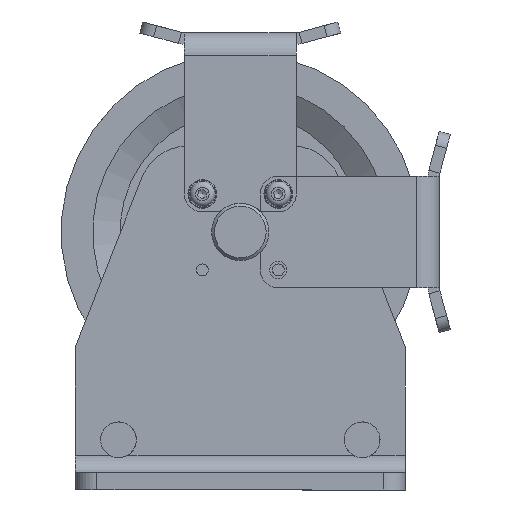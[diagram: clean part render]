
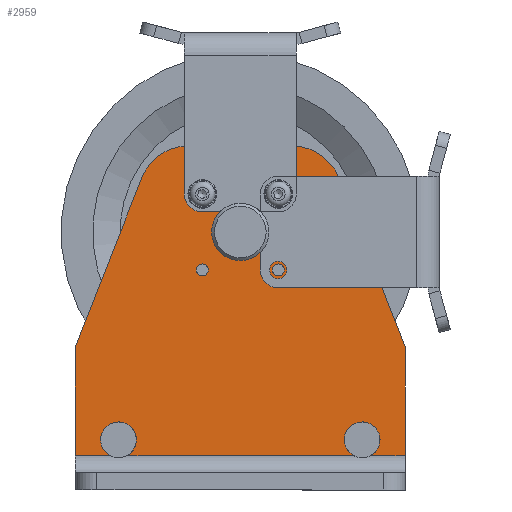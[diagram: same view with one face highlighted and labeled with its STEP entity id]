
A CAD part, front view. The second image highlights one B-rep face of the part: STEP entity #2959.
In plain terms, the highlighted planar face has unit normal (0, -1, 0) as drawn and (0, 0, 1) by its records, which use the part's own axes.
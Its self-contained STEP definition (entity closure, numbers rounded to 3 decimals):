
#165=FACE_BOUND('',#490,.T.);
#166=FACE_BOUND('',#491,.T.);
#167=FACE_BOUND('',#492,.T.);
#168=FACE_BOUND('',#493,.T.);
#169=FACE_BOUND('',#494,.T.);
#207=PLANE('',#3412);
#315=FACE_OUTER_BOUND('',#489,.T.);
#489=EDGE_LOOP('',(#2210,#2211,#2212,#2213,#2214,#2215,#2216,#2217,#2218,
#2219,#2220,#2221,#2222,#2223));
#490=EDGE_LOOP('',(#2224,#2225));
#491=EDGE_LOOP('',(#2226,#2227));
#492=EDGE_LOOP('',(#2228,#2229));
#493=EDGE_LOOP('',(#2230,#2231));
#494=EDGE_LOOP('',(#2232));
#667=CIRCLE('',#3362,4.188);
#668=CIRCLE('',#3363,4.188);
#670=CIRCLE('',#3366,4.188);
#671=CIRCLE('',#3367,4.188);
#673=CIRCLE('',#3370,4.188);
#674=CIRCLE('',#3371,4.188);
#676=CIRCLE('',#3374,4.188);
#677=CIRCLE('',#3375,4.188);
#688=CIRCLE('',#3398,12.5);
#689=CIRCLE('',#3399,12.5);
#690=CIRCLE('',#3401,12.5);
#691=CIRCLE('',#3402,12.5);
#692=CIRCLE('',#3404,20.);
#693=CIRCLE('',#3407,35.);
#694=CIRCLE('',#3410,35.);
#842=LINE('',#4753,#1063);
#843=LINE('',#4770,#1064);
#847=LINE('',#4781,#1068);
#890=LINE('',#4945,#1111);
#891=LINE('',#4948,#1112);
#900=LINE('',#4986,#1121);
#903=LINE('',#4994,#1124);
#906=LINE('',#5001,#1127);
#1063=VECTOR('',#3731,10.);
#1064=VECTOR('',#3732,10.);
#1068=VECTOR('',#3740,10.);
#1111=VECTOR('',#3889,10.);
#1112=VECTOR('',#3892,10.);
#1121=VECTOR('',#3935,10.);
#1124=VECTOR('',#3944,10.);
#1127=VECTOR('',#3953,10.);
#1292=VERTEX_POINT('',#4736);
#1293=VERTEX_POINT('',#4737);
#1294=VERTEX_POINT('',#4752);
#1295=VERTEX_POINT('',#4754);
#1296=VERTEX_POINT('',#4769);
#1301=VERTEX_POINT('',#4779);
#1330=VERTEX_POINT('',#4862);
#1331=VERTEX_POINT('',#4863);
#1333=VERTEX_POINT('',#4870);
#1334=VERTEX_POINT('',#4871);
#1336=VERTEX_POINT('',#4878);
#1337=VERTEX_POINT('',#4879);
#1339=VERTEX_POINT('',#4886);
#1340=VERTEX_POINT('',#4887);
#1349=VERTEX_POINT('',#4943);
#1350=VERTEX_POINT('',#4947);
#1359=VERTEX_POINT('',#4971);
#1360=VERTEX_POINT('',#4976);
#1361=VERTEX_POINT('',#4981);
#1362=VERTEX_POINT('',#4985);
#1363=VERTEX_POINT('',#4989);
#1364=VERTEX_POINT('',#4993);
#1365=VERTEX_POINT('',#4997);
#1571=EDGE_CURVE('',#1294,#1293,#842,.T.);
#1573=EDGE_CURVE('',#1296,#1295,#843,.T.);
#1579=EDGE_CURVE('',#1292,#1301,#847,.T.);
#1621=EDGE_CURVE('',#1330,#1331,#667,.T.);
#1622=EDGE_CURVE('',#1331,#1330,#668,.T.);
#1625=EDGE_CURVE('',#1333,#1334,#670,.T.);
#1626=EDGE_CURVE('',#1334,#1333,#671,.T.);
#1629=EDGE_CURVE('',#1336,#1337,#673,.T.);
#1630=EDGE_CURVE('',#1337,#1336,#674,.T.);
#1633=EDGE_CURVE('',#1339,#1340,#676,.T.);
#1634=EDGE_CURVE('',#1340,#1339,#677,.T.);
#1654=EDGE_CURVE('',#1349,#1301,#890,.T.);
#1655=EDGE_CURVE('',#1296,#1350,#891,.T.);
#1669=EDGE_CURVE('',#1293,#1359,#688,.T.);
#1670=EDGE_CURVE('',#1359,#1292,#689,.T.);
#1672=EDGE_CURVE('',#1295,#1360,#690,.T.);
#1673=EDGE_CURVE('',#1360,#1294,#691,.T.);
#1675=EDGE_CURVE('',#1361,#1361,#692,.T.);
#1676=EDGE_CURVE('',#1350,#1362,#900,.T.);
#1678=EDGE_CURVE('',#1362,#1363,#693,.T.);
#1680=EDGE_CURVE('',#1363,#1364,#903,.T.);
#1682=EDGE_CURVE('',#1364,#1365,#694,.T.);
#1684=EDGE_CURVE('',#1365,#1349,#906,.T.);
#2210=ORIENTED_EDGE('',*,*,#1579,.T.);
#2211=ORIENTED_EDGE('',*,*,#1654,.F.);
#2212=ORIENTED_EDGE('',*,*,#1684,.F.);
#2213=ORIENTED_EDGE('',*,*,#1682,.F.);
#2214=ORIENTED_EDGE('',*,*,#1680,.F.);
#2215=ORIENTED_EDGE('',*,*,#1678,.F.);
#2216=ORIENTED_EDGE('',*,*,#1676,.F.);
#2217=ORIENTED_EDGE('',*,*,#1655,.F.);
#2218=ORIENTED_EDGE('',*,*,#1573,.T.);
#2219=ORIENTED_EDGE('',*,*,#1672,.T.);
#2220=ORIENTED_EDGE('',*,*,#1673,.T.);
#2221=ORIENTED_EDGE('',*,*,#1571,.T.);
#2222=ORIENTED_EDGE('',*,*,#1669,.T.);
#2223=ORIENTED_EDGE('',*,*,#1670,.T.);
#2224=ORIENTED_EDGE('',*,*,#1621,.T.);
#2225=ORIENTED_EDGE('',*,*,#1622,.T.);
#2226=ORIENTED_EDGE('',*,*,#1625,.T.);
#2227=ORIENTED_EDGE('',*,*,#1626,.T.);
#2228=ORIENTED_EDGE('',*,*,#1629,.T.);
#2229=ORIENTED_EDGE('',*,*,#1630,.T.);
#2230=ORIENTED_EDGE('',*,*,#1633,.T.);
#2231=ORIENTED_EDGE('',*,*,#1634,.T.);
#2232=ORIENTED_EDGE('',*,*,#1675,.T.);
#2959=ADVANCED_FACE('',(#315,#165,#166,#167,#168,#169),#207,.T.);
#3362=AXIS2_PLACEMENT_3D('',#4864,#3820,#3821);
#3363=AXIS2_PLACEMENT_3D('',#4865,#3822,#3823);
#3366=AXIS2_PLACEMENT_3D('',#4872,#3829,#3830);
#3367=AXIS2_PLACEMENT_3D('',#4873,#3831,#3832);
#3370=AXIS2_PLACEMENT_3D('',#4880,#3838,#3839);
#3371=AXIS2_PLACEMENT_3D('',#4881,#3840,#3841);
#3374=AXIS2_PLACEMENT_3D('',#4888,#3847,#3848);
#3375=AXIS2_PLACEMENT_3D('',#4889,#3849,#3850);
#3398=AXIS2_PLACEMENT_3D('',#4973,#3917,#3918);
#3399=AXIS2_PLACEMENT_3D('',#4974,#3919,#3920);
#3401=AXIS2_PLACEMENT_3D('',#4978,#3924,#3925);
#3402=AXIS2_PLACEMENT_3D('',#4979,#3926,#3927);
#3404=AXIS2_PLACEMENT_3D('',#4983,#3931,#3932);
#3407=AXIS2_PLACEMENT_3D('',#4990,#3939,#3940);
#3410=AXIS2_PLACEMENT_3D('',#4998,#3948,#3949);
#3412=AXIS2_PLACEMENT_3D('',#5002,#3954,#3955);
#3731=DIRECTION('',(1.,0.,0.));
#3732=DIRECTION('',(1.,0.,0.));
#3740=DIRECTION('',(1.,0.,0.));
#3820=DIRECTION('center_axis',(0.,0.,-1.));
#3821=DIRECTION('ref_axis',(1.,0.,0.));
#3822=DIRECTION('center_axis',(0.,0.,-1.));
#3823=DIRECTION('ref_axis',(1.,0.,0.));
#3829=DIRECTION('center_axis',(0.,0.,-1.));
#3830=DIRECTION('ref_axis',(1.,0.,0.));
#3831=DIRECTION('center_axis',(0.,0.,-1.));
#3832=DIRECTION('ref_axis',(1.,0.,0.));
#3838=DIRECTION('center_axis',(0.,0.,-1.));
#3839=DIRECTION('ref_axis',(1.,0.,0.));
#3840=DIRECTION('center_axis',(0.,0.,-1.));
#3841=DIRECTION('ref_axis',(1.,0.,0.));
#3847=DIRECTION('center_axis',(0.,0.,-1.));
#3848=DIRECTION('ref_axis',(1.,0.,0.));
#3849=DIRECTION('center_axis',(0.,0.,-1.));
#3850=DIRECTION('ref_axis',(1.,0.,0.));
#3889=DIRECTION('',(0.,-1.,0.));
#3892=DIRECTION('',(0.,1.,0.));
#3917=DIRECTION('center_axis',(0.,0.,-1.));
#3918=DIRECTION('ref_axis',(-1.,0.,0.));
#3919=DIRECTION('center_axis',(0.,0.,-1.));
#3920=DIRECTION('ref_axis',(-1.,0.,0.));
#3924=DIRECTION('center_axis',(0.,0.,-1.));
#3925=DIRECTION('ref_axis',(-1.,0.,0.));
#3926=DIRECTION('center_axis',(0.,0.,-1.));
#3927=DIRECTION('ref_axis',(-1.,0.,0.));
#3931=DIRECTION('center_axis',(0.,0.,-1.));
#3932=DIRECTION('ref_axis',(-1.,0.,0.));
#3935=DIRECTION('',(0.366,0.931,0.));
#3939=DIRECTION('center_axis',(0.,0.,-1.));
#3940=DIRECTION('ref_axis',(0.,1.,0.));
#3944=DIRECTION('',(1.,0.,0.));
#3948=DIRECTION('center_axis',(0.,0.,-1.));
#3949=DIRECTION('ref_axis',(0.931,0.366,0.));
#3953=DIRECTION('',(0.366,-0.931,0.));
#3954=DIRECTION('center_axis',(0.,0.,1.));
#3955=DIRECTION('ref_axis',(1.,0.,0.));
#4736=CARTESIAN_POINT('',(90.937,24.,12.));
#4737=CARTESIAN_POINT('',(79.063,24.,12.));
#4752=CARTESIAN_POINT('',(-79.063,24.,12.));
#4753=CARTESIAN_POINT('',(39.531,24.,12.));
#4754=CARTESIAN_POINT('',(-90.937,24.,12.));
#4769=CARTESIAN_POINT('',(-115.,24.,12.));
#4770=CARTESIAN_POINT('',(-45.469,24.,12.));
#4779=CARTESIAN_POINT('',(115.,24.,12.));
#4781=CARTESIAN_POINT('',(57.5,24.,12.));
#4862=CARTESIAN_POINT('',(-22.312,153.5,12.));
#4863=CARTESIAN_POINT('',(-30.688,153.5,12.));
#4864=CARTESIAN_POINT('Origin',(-26.5,153.5,12.));
#4865=CARTESIAN_POINT('Origin',(-26.5,153.5,12.));
#4870=CARTESIAN_POINT('',(30.688,153.5,12.));
#4871=CARTESIAN_POINT('',(22.312,153.5,12.));
#4872=CARTESIAN_POINT('Origin',(26.5,153.5,12.));
#4873=CARTESIAN_POINT('Origin',(26.5,153.5,12.));
#4878=CARTESIAN_POINT('',(-22.312,206.5,12.));
#4879=CARTESIAN_POINT('',(-30.688,206.5,12.));
#4880=CARTESIAN_POINT('Origin',(-26.5,206.5,12.));
#4881=CARTESIAN_POINT('Origin',(-26.5,206.5,12.));
#4886=CARTESIAN_POINT('',(30.688,206.5,12.));
#4887=CARTESIAN_POINT('',(22.312,206.5,12.));
#4888=CARTESIAN_POINT('Origin',(26.5,206.5,12.));
#4889=CARTESIAN_POINT('Origin',(26.5,206.5,12.));
#4943=CARTESIAN_POINT('',(115.,100.,12.));
#4945=CARTESIAN_POINT('',(115.,0.,12.));
#4947=CARTESIAN_POINT('',(-115.,100.,12.));
#4948=CARTESIAN_POINT('',(-115.,100.,12.));
#4971=CARTESIAN_POINT('',(97.5,35.,12.));
#4973=CARTESIAN_POINT('Origin',(85.,35.,12.));
#4974=CARTESIAN_POINT('Origin',(85.,35.,12.));
#4976=CARTESIAN_POINT('',(-72.5,35.,12.));
#4978=CARTESIAN_POINT('Origin',(-85.,35.,12.));
#4979=CARTESIAN_POINT('Origin',(-85.,35.,12.));
#4981=CARTESIAN_POINT('',(20.,180.,12.));
#4983=CARTESIAN_POINT('Origin',(0.,180.,12.));
#4985=CARTESIAN_POINT('',(-68.722,217.798,12.));
#4986=CARTESIAN_POINT('',(-68.722,217.798,12.));
#4989=CARTESIAN_POINT('',(-36.146,240.,12.));
#4990=CARTESIAN_POINT('Origin',(-36.146,205.,12.));
#4993=CARTESIAN_POINT('',(36.146,240.,12.));
#4994=CARTESIAN_POINT('',(36.146,240.,12.));
#4997=CARTESIAN_POINT('',(68.722,217.798,12.));
#4998=CARTESIAN_POINT('Origin',(36.146,205.,12.));
#5001=CARTESIAN_POINT('',(115.,100.,12.));
#5002=CARTESIAN_POINT('Origin',(0.,103.666,12.));
